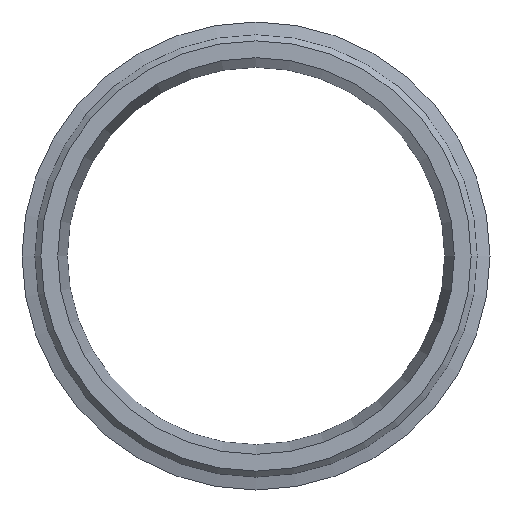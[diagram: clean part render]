
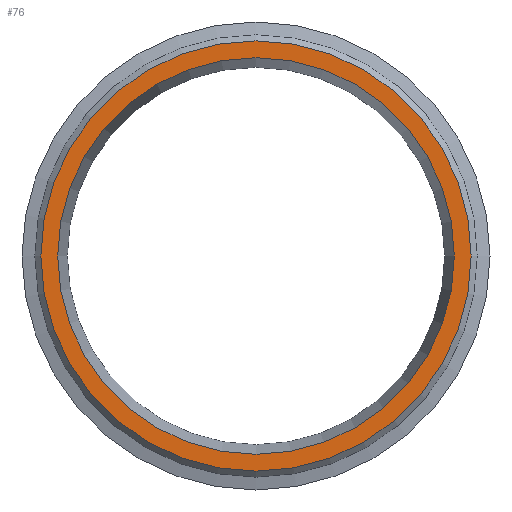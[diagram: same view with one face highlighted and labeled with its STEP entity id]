
A CAD part, left-side view. The second image highlights one B-rep face of the part: STEP entity #76.
In plain terms, the highlighted planar face has unit normal (-1, 0, 0).
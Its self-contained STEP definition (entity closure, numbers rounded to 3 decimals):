
#76=ADVANCED_FACE('',(#91,#92),#93,.T.);
#91=FACE_OUTER_BOUND('',#127,.T.);
#92=FACE_BOUND('',#128,.T.);
#93=PLANE('',#129);
#127=EDGE_LOOP('',(#165));
#128=EDGE_LOOP('',(#166));
#129=AXIS2_PLACEMENT_3D('',#167,#168,#169);
#165=ORIENTED_EDGE('',*,*,#222,.T.);
#166=ORIENTED_EDGE('',*,*,#220,.F.);
#167=CARTESIAN_POINT('',(0.0,26.273,0.0));
#168=DIRECTION('',(-1.0,0.0,0.0));
#169=DIRECTION('',(0.0,0.0,1.0));
#220=EDGE_CURVE('',#232,#232,#233,.T.);
#222=EDGE_CURVE('',#236,#236,#237,.T.);
#232=VERTEX_POINT('',#256);
#233=CIRCLE('',#257,26.273);
#236=VERTEX_POINT('',#260);
#237=CIRCLE('',#261,28.5);
#256=CARTESIAN_POINT('',(0.0,0.0,26.273));
#257=AXIS2_PLACEMENT_3D('',#280,#281,#282);
#260=CARTESIAN_POINT('',(0.0,0.0,28.5));
#261=AXIS2_PLACEMENT_3D('',#286,#287,#288);
#280=CARTESIAN_POINT('',(0.0,0.0,0.0));
#281=DIRECTION('',(-1.0,0.0,0.0));
#282=DIRECTION('',(0.0,0.0,1.0));
#286=CARTESIAN_POINT('',(0.0,0.0,0.0));
#287=DIRECTION('',(-1.0,0.0,0.0));
#288=DIRECTION('',(0.0,0.0,1.0));
